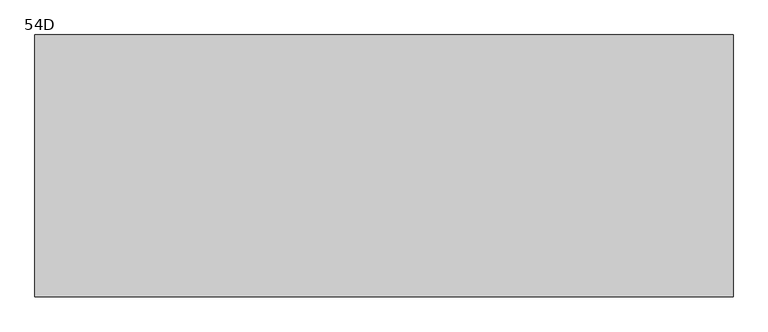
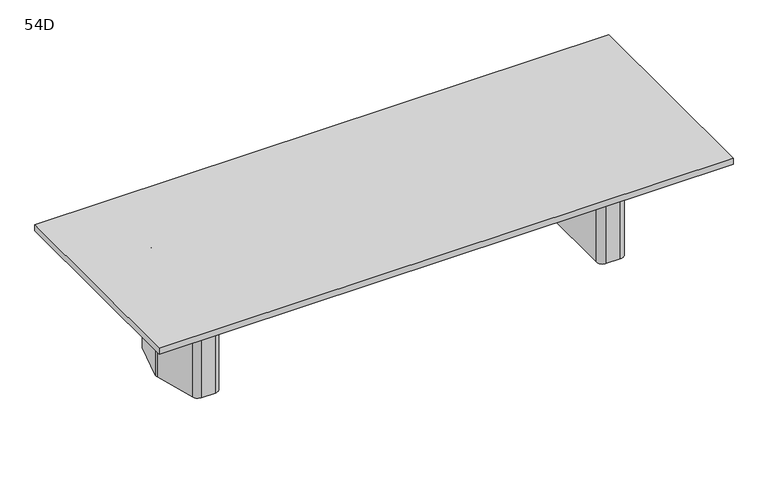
"""IFC4 building model written with IfcOpenShell, lengths in millimetres: furniture geometry, Coalesse_AM_Table_Conference_ETable2_Rectangular_12ft_TwoBase : 54D."""

from ifc_helpers import new_model, si_unit, frame, origin, place, context, project, spatial, polyline, circle_curve, outline, extrude, source, transform, mapped, element, save
from ifc_brep_helpers import plane_surface, cylinder_surface, revolved_surface, advanced_brep


def furniture_54d_54bf0e55(model_context):
    return source(origin(), model_context, "Body", "SolidModel", [
        advanced_brep(
        [(1370.224548, 274.2093613, 698.5), (1330.3579246, 304.8, 698.5), (1241.425, 304.8, 698.5), (1200.15, 263.525, 698.5), (1200.15, -263.525, 698.5), (1241.425, -304.8, 698.5), (1330.3579246, -304.8, 698.5), (1370.224548, -274.2093613, 698.5), (1440.8503901, -10.6333708, 698.5), (1440.8503901, 10.6333708, 698.5), (1238.25, -206.375, 698.5), (1238.25, 206.375, 698.5), (1263.65, 231.775, 698.5), (1322.6608422, 231.775, 698.5), (1347.195338, 212.9490792, 698.5), (1385.8875, 68.54974, 698.5), (1385.8875, -68.54974, 698.5), (1347.195338, -212.9490792, 698.5), (1322.6608422, -231.775, 698.5), (1263.65, -231.775, 698.5), (1370.224548, 274.2093613, 3.175), (1440.8503901, 10.6333708, 3.175), (1440.8503901, -10.6333708, 3.175), (1370.224548, -274.2093613, 3.175), (1330.3579246, -304.8, 3.175), (1241.425, -304.8, 3.175), (1200.15, -263.525, 3.175), (1200.15, 263.525, 3.175), (1241.425, 304.8, 3.175), (1330.3579246, 304.8, 3.175), (1359.4625859, 216.2361187, 3.175), (1322.6608422, 244.475, 3.175), (1263.65, 244.475, 3.175), (1225.55, 206.375, 3.175), (1225.55, -206.375, 3.175), (1263.65, -244.475, 3.175), (1322.6608422, -244.475, 3.175), (1359.4625859, -216.2361187, 3.175), (1398.5875, -70.2217466, 3.175), (1398.5875, 70.2217466, 3.175), (1263.65, -231.775, 3.175), (1238.25, -206.375, 3.175), (1322.6608422, -231.775, 3.175), (1347.195338, -212.9490792, 3.175), (1385.8875, -68.54974, 3.175), (1385.8875, 68.54974, 3.175), (1347.195338, 212.9490792, 3.175), (1322.6608422, 231.775, 3.175), (1263.65, 231.775, 3.175), (1238.25, 206.375, 3.175), (1359.4625859, 216.2361187, 0.0), (1398.5875, 70.2217466, 0.0), (1398.5875, -70.2217466, 0.0), (1359.4625859, -216.2361187, 0.0), (1322.6608422, -244.475, 0.0), (1263.65, -244.475, 0.0), (1225.55, -206.375, 0.0), (1225.55, 206.375, 0.0), (1263.65, 244.475, 0.0), (1322.6608422, 244.475, 0.0)],
        [
            (0, 1, circle_curve(frame((1330.3579246, 263.5270004, 698.5), z_axis=(0.0, 0.0, 1.0), x_axis=(-1.0, 0.0, 0.0)), 41.2729996)),
            (1, 2),
            (2, 3, circle_curve(frame((1241.425, 263.525, 698.5), z_axis=(0.0, 0.0, 1.0), x_axis=(-1.0, 0.0, 0.0)), 41.275)),
            (3, 4),
            (4, 5, circle_curve(frame((1241.425, -263.525, 698.5), z_axis=(0.0, 0.0, 1.0), x_axis=(-1.0, 0.0, 0.0)), 41.275)),
            (5, 6),
            (6, 7, circle_curve(frame((1330.3579246, -263.5270004, 698.5), z_axis=(0.0, 0.0, 1.0), x_axis=(-1.0, 0.0, 0.0)), 41.2729996)),
            (7, 8),
            (8, 9, circle_curve(frame((1401.1665979, 0.0, 698.5), z_axis=(0.0, 0.0, 1.0), x_axis=(-1.0, 0.0, 0.0)), 41.0837187)),
            (9, 0),
            (10, 11),
            (11, 12, circle_curve(frame((1263.65, 206.375, 698.5), z_axis=(0.0, 0.0, -1.0), x_axis=(-1.0, 0.0, 0.0)), 25.4)),
            (12, 13),
            (13, 14, circle_curve(frame((1322.6608422, 206.375, 698.5), z_axis=(0.0, 0.0, -1.0), x_axis=(-1.0, 0.0, 0.0)), 25.4)),
            (14, 15),
            (15, 16),
            (16, 17),
            (17, 18, circle_curve(frame((1322.6608422, -206.375, 698.5), z_axis=(0.0, 0.0, -1.0), x_axis=(-1.0, 0.0, 0.0)), 25.4)),
            (18, 19),
            (19, 10, circle_curve(frame((1263.65, -206.375, 698.5), z_axis=(0.0, 0.0, -1.0), x_axis=(-1.0, 0.0, 0.0)), 25.4)),
            (20, 21),
            (21, 22, circle_curve(frame((1401.1665979, 0.0, 3.175), z_axis=(0.0, 0.0, -1.0), x_axis=(-1.0, 0.0, 0.0)), 41.0837187)),
            (22, 23),
            (23, 24, circle_curve(frame((1330.3579246, -263.5270004, 3.175), z_axis=(0.0, 0.0, -1.0), x_axis=(-1.0, 0.0, 0.0)), 41.2729996)),
            (24, 25),
            (25, 26, circle_curve(frame((1241.425, -263.525, 3.175), z_axis=(0.0, 0.0, -1.0), x_axis=(-1.0, 0.0, 0.0)), 41.275)),
            (26, 27),
            (27, 28, circle_curve(frame((1241.425, 263.525, 3.175), z_axis=(0.0, 0.0, -1.0), x_axis=(-1.0, 0.0, 0.0)), 41.275)),
            (28, 29),
            (29, 20, circle_curve(frame((1330.3579246, 263.5270004, 3.175), z_axis=(0.0, 0.0, -1.0), x_axis=(-1.0, 0.0, 0.0)), 41.2729996)),
            (30, 31, circle_curve(frame((1322.6608422, 206.375, 3.175), z_axis=(0.0, 0.0, 1.0), x_axis=(-1.0, 0.0, 0.0)), 38.1)),
            (31, 32),
            (32, 33, circle_curve(frame((1263.65, 206.375, 3.175), z_axis=(0.0, 0.0, 1.0), x_axis=(-1.0, 0.0, 0.0)), 38.1)),
            (33, 34),
            (34, 35, circle_curve(frame((1263.65, -206.375, 3.175), z_axis=(0.0, 0.0, 1.0), x_axis=(-1.0, 0.0, 0.0)), 38.1)),
            (35, 36),
            (36, 37, circle_curve(frame((1322.6608422, -206.375, 3.175), z_axis=(0.0, 0.0, 1.0), x_axis=(-1.0, 0.0, 0.0)), 38.1)),
            (37, 38),
            (38, 39),
            (39, 30),
            (9, 21),
            (20, 0),
            (8, 22),
            (7, 23),
            (6, 24),
            (5, 25),
            (4, 26),
            (3, 27),
            (2, 28),
            (1, 29),
            (19, 40),
            (40, 41, circle_curve(frame((1263.65, -206.375, 3.175), z_axis=(0.0, 0.0, -1.0), x_axis=(-1.0, 0.0, 0.0)), 25.4)),
            (41, 10),
            (18, 42),
            (42, 40),
            (17, 43),
            (43, 42, circle_curve(frame((1322.6608422, -206.375, 3.175), z_axis=(0.0, 0.0, -1.0), x_axis=(-1.0, 0.0, 0.0)), 25.4)),
            (16, 44),
            (44, 43),
            (15, 45),
            (45, 44),
            (14, 46),
            (46, 45),
            (13, 47),
            (47, 46, circle_curve(frame((1322.6608422, 206.375, 3.175), z_axis=(0.0, 0.0, -1.0), x_axis=(-1.0, 0.0, 0.0)), 25.4)),
            (12, 48),
            (48, 47),
            (11, 49),
            (49, 48, circle_curve(frame((1263.65, 206.375, 3.175), z_axis=(0.0, 0.0, -1.0), x_axis=(-1.0, 0.0, 0.0)), 25.4)),
            (41, 49),
            (50, 51),
            (51, 52),
            (52, 53),
            (53, 54, circle_curve(frame((1322.6608422, -206.375, 0.0), z_axis=(0.0, 0.0, -1.0), x_axis=(-1.0, 0.0, 0.0)), 38.1)),
            (54, 55),
            (55, 56, circle_curve(frame((1263.65, -206.375, 0.0), z_axis=(0.0, 0.0, -1.0), x_axis=(-1.0, 0.0, 0.0)), 38.1)),
            (56, 57),
            (57, 58, circle_curve(frame((1263.65, 206.375, 0.0), z_axis=(0.0, 0.0, -1.0), x_axis=(-1.0, 0.0, 0.0)), 38.1)),
            (58, 59),
            (59, 50, circle_curve(frame((1322.6608422, 206.375, 0.0), z_axis=(0.0, 0.0, -1.0), x_axis=(-1.0, 0.0, 0.0)), 38.1)),
            (50, 30),
            (39, 51),
            (38, 52),
            (37, 53),
            (36, 54),
            (35, 55),
            (34, 56),
            (33, 57),
            (32, 58),
            (31, 59),
        ],
        [
            plane_surface(frame((1440.8374275, 10.6817473, 698.5), z_axis=(0.0, 0.0, 1.0000000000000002), x_axis=(0.25882201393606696, -0.9659250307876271, 0.0))),
            plane_surface(frame((1440.8374275, 10.6817473, 3.175), z_axis=(0.0, 0.0, -1.0000000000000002), x_axis=(-0.25882201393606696, 0.9659250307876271, 0.0))),
            plane_surface(frame((1370.224548, 274.2093613, 698.5), z_axis=(0.9659250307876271, 0.25882201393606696, 0.0), x_axis=(0.0, 0.0, -1.0))),
            cylinder_surface(frame((1401.1665979, 0.0, 3.175), z_axis=(0.0, 0.0, 1.0), x_axis=(-1.0, 0.0, 0.0)), 41.0837187),
            plane_surface(frame((1440.8503901, -10.6333708, 698.5), z_axis=(0.9659250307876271, -0.2588220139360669, 0.0), x_axis=(0.0, 0.0, -1.0))),
            cylinder_surface(frame((1330.3579246, -263.5270004, 3.175), z_axis=(0.0, 0.0, 1.0), x_axis=(-1.0, 0.0, 0.0)), 41.2729996),
            plane_surface(frame((1330.3579246, -304.8, 698.5), z_axis=(0.0, -1.0, 0.0), x_axis=(0.0, 0.0, -1.0))),
            cylinder_surface(frame((1241.425, -263.525, 3.175), z_axis=(0.0, 0.0, 1.0), x_axis=(-1.0, 0.0, 0.0)), 41.275),
            plane_surface(frame((1200.15, -263.525, 698.5), z_axis=(-1.0, 0.0, 0.0), x_axis=(0.0, 0.0, -1.0))),
            cylinder_surface(frame((1241.425, 263.525, 3.175), z_axis=(0.0, 0.0, 1.0), x_axis=(-1.0, 0.0, 0.0)), 41.275),
            plane_surface(frame((1241.425, 304.8, 698.5), z_axis=(0.0, 1.0, 0.0), x_axis=(0.0, 0.0, -1.0))),
            cylinder_surface(frame((1330.3579246, 263.5270004, 3.175), z_axis=(0.0, 0.0, 1.0), x_axis=(-1.0, 0.0, 0.0)), 41.2729996),
            revolved_surface(polyline([(1238.25, -206.375, 3.175), (1238.25, -206.375, 698.5)]), (1263.65, -206.375, 0.0), (0.0, 0.0, -1.0)),
            plane_surface(frame((1263.65, -231.775, 698.5), z_axis=(0.0, 1.0, 0.0), x_axis=(0.0, 0.0, -1.0))),
            revolved_surface(polyline([(1297.2608421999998, -206.375, 3.175), (1297.2608421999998, -206.375, 698.5)]), (1322.6608422, -206.375, 0.0), (0.0, 0.0, -1.0)),
            plane_surface(frame((1347.195338, -212.9490792, 698.5), z_axis=(-0.9659250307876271, 0.2588220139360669, 0.0), x_axis=(0.0, 0.0, -1.0))),
            plane_surface(frame((1385.8875, -68.54974, 698.5), z_axis=(-1.0, 0.0, 0.0), x_axis=(0.0, 0.0, -1.0))),
            plane_surface(frame((1385.8875, 68.54974, 698.5), z_axis=(-0.9659250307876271, -0.25882201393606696, 0.0), x_axis=(0.0, 0.0, -1.0))),
            revolved_surface(polyline([(1297.2608421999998, 206.375, 3.175), (1297.2608421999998, 206.375, 698.5)]), (1322.6608422, 206.375, 0.0), (0.0, 0.0, -1.0)),
            plane_surface(frame((1322.6608422, 231.775, 698.5), z_axis=(0.0, -1.0, 0.0), x_axis=(0.0, 0.0, -1.0))),
            revolved_surface(polyline([(1238.25, 206.375, 3.175), (1238.25, 206.375, 698.5)]), (1263.65, 206.375, 0.0), (0.0, 0.0, -1.0)),
            plane_surface(frame((1238.25, 206.375, 698.5), z_axis=(1.0, 0.0, 0.0), x_axis=(0.0, 0.0, -1.0))),
            plane_surface(frame((1398.1547479, 71.8367796, 3.175), z_axis=(0.0, 0.0, 1.0), x_axis=(0.25882201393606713, -0.965925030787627, 0.0))),
            plane_surface(frame((1398.1547479, 71.8367796, 0.0), z_axis=(0.0, 0.0, -1.0), x_axis=(-0.25882201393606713, 0.965925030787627, 0.0))),
            plane_surface(frame((1359.4625859, 216.2361187, 3.175), z_axis=(0.965925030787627, 0.25882201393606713, 0.0), x_axis=(0.0, 0.0, -1.0))),
            plane_surface(frame((1398.5875, 70.2217466, 3.175), z_axis=(1.0, 0.0, 0.0), x_axis=(0.0, 0.0, -1.0))),
            plane_surface(frame((1398.5875, -70.2217466, 3.175), z_axis=(0.9659250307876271, -0.2588220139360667, 0.0), x_axis=(0.0, 0.0, -1.0))),
            cylinder_surface(frame((1322.6608422, -206.375, 0.0), z_axis=(0.0, 0.0, 1.0), x_axis=(-1.0, 0.0, 0.0)), 38.1),
            plane_surface(frame((1322.6608422, -244.475, 3.175), z_axis=(0.0, -1.0, 0.0), x_axis=(0.0, 0.0, -1.0))),
            cylinder_surface(frame((1263.65, -206.375, 0.0), z_axis=(0.0, 0.0, 1.0), x_axis=(-1.0, 0.0, 0.0)), 38.1),
            plane_surface(frame((1225.55, -206.375, 3.175), z_axis=(-1.0, 0.0, 0.0), x_axis=(0.0, 0.0, -1.0))),
            cylinder_surface(frame((1263.65, 206.375, 0.0), z_axis=(0.0, 0.0, 1.0), x_axis=(-1.0, 0.0, 0.0)), 38.1),
            plane_surface(frame((1263.65, 244.475, 3.175), z_axis=(0.0, 1.0, 0.0), x_axis=(0.0, 0.0, -1.0))),
            cylinder_surface(frame((1322.6608422, 206.375, 0.0), z_axis=(0.0, 0.0, 1.0), x_axis=(-1.0, 0.0, 0.0)), 38.1),
        ],
        [
            (0, [[1, 2, 3, 4, 5, 6, 7, 8, 9, 10], [11, 12, 13, 14, 15, 16, 17, 18, 19, 20]]),
            (1, [[21, 22, 23, 24, 25, 26, 27, 28, 29, 30], [31, 32, 33, 34, 35, 36, 37, 38, 39, 40]]),
            (2, [[41, -21, 42, -10]]),
            (3, [[43, -22, -41, -9]]),
            (4, [[44, -23, -43, -8]]),
            (5, [[45, -24, -44, -7]]),
            (6, [[46, -25, -45, -6]]),
            (7, [[47, -26, -46, -5]]),
            (8, [[48, -27, -47, -4]]),
            (9, [[49, -28, -48, -3]]),
            (10, [[50, -29, -49, -2]]),
            (11, [[-42, -30, -50, -1]]),
            (12, [[51, 52, 53, -20]]),
            (13, [[54, 55, -51, -19]]),
            (14, [[56, 57, -54, -18]]),
            (15, [[58, 59, -56, -17]]),
            (16, [[60, 61, -58, -16]]),
            (17, [[62, 63, -60, -15]]),
            (18, [[64, 65, -62, -14]]),
            (19, [[66, 67, -64, -13]]),
            (20, [[68, 69, -66, -12]]),
            (21, [[-53, 70, -68, -11]]),
            (22, [[-55, -57, -59, -61, -63, -65, -67, -69, -70, -52]]),
            (23, [[71, 72, 73, 74, 75, 76, 77, 78, 79, 80]]),
            (24, [[81, -40, 82, -71]]),
            (25, [[-82, -39, 83, -72]]),
            (26, [[-83, -38, 84, -73]]),
            (27, [[-84, -37, 85, -74]]),
            (28, [[-85, -36, 86, -75]]),
            (29, [[-86, -35, 87, -76]]),
            (30, [[-87, -34, 88, -77]]),
            (31, [[-88, -33, 89, -78]]),
            (32, [[-89, -32, 90, -79]]),
            (33, [[-90, -31, -81, -80]]),
        ],
    ),
        advanced_brep(
        [(-1381.337048, 274.2093613, 698.5), (-1451.9628901, 10.6333708, 698.5), (-1451.9628901, -10.6333708, 698.5), (-1381.337048, -274.2093613, 698.5), (-1341.4704246, -304.8, 698.5), (-1252.5375, -304.8, 698.5), (-1211.2625, -263.525, 698.5), (-1211.2625, 263.525, 698.5), (-1252.5375, 304.8, 698.5), (-1341.4704246, 304.8, 698.5), (-1249.3625, -206.375, 698.5), (-1274.7625, -231.775, 698.5), (-1333.7733422, -231.775, 698.5), (-1358.307838, -212.9490792, 698.5), (-1397.0, -68.54974, 698.5), (-1397.0, 68.54974, 698.5), (-1358.307838, 212.9490792, 698.5), (-1333.7733422, 231.775, 698.5), (-1274.7625, 231.775, 698.5), (-1249.3625, 206.375, 698.5), (-1381.337048, 274.2093613, 3.175), (-1341.4704246, 304.8, 3.175), (-1252.5375, 304.8, 3.175), (-1211.2625, 263.525, 3.175), (-1211.2625, -263.525, 3.175), (-1252.5375, -304.8, 3.175), (-1341.4704246, -304.8, 3.175), (-1381.337048, -274.2093613, 3.175), (-1451.9628901, -10.6333708, 3.175), (-1451.9628901, 10.6333708, 3.175), (-1370.5750859, 216.2361187, 3.175), (-1409.7, 70.2217466, 3.175), (-1409.7, -70.2217466, 3.175), (-1370.5750859, -216.2361187, 3.175), (-1333.7733422, -244.475, 3.175), (-1274.7625, -244.475, 3.175), (-1236.6625, -206.375, 3.175), (-1236.6625, 206.375, 3.175), (-1274.7625, 244.475, 3.175), (-1333.7733422, 244.475, 3.175), (-1249.3625, -206.375, 3.175), (-1274.7625, -231.775, 3.175), (-1333.7733422, -231.775, 3.175), (-1358.307838, -212.9490792, 3.175), (-1397.0, -68.54974, 3.175), (-1397.0, 68.54974, 3.175), (-1358.307838, 212.9490792, 3.175), (-1333.7733422, 231.775, 3.175), (-1274.7625, 231.775, 3.175), (-1249.3625, 206.375, 3.175), (-1370.5750859, 216.2361187, 0.0), (-1333.7733422, 244.475, 0.0), (-1274.7625, 244.475, 0.0), (-1236.6625, 206.375, 0.0), (-1236.6625, -206.375, 0.0), (-1274.7625, -244.475, 0.0), (-1333.7733422, -244.475, 0.0), (-1370.5750859, -216.2361187, 0.0), (-1409.7, -70.2217466, 0.0), (-1409.7, 70.2217466, 0.0)],
        [
            (0, 1),
            (1, 2, circle_curve(frame((-1412.2790979, 0.0, 698.5), z_axis=(0.0, 0.0, 1.0), x_axis=(1.0, 0.0, 0.0)), 41.0837187)),
            (2, 3),
            (3, 4, circle_curve(frame((-1341.4704246, -263.5270004, 698.5), z_axis=(0.0, 0.0, 1.0), x_axis=(1.0, 0.0, 0.0)), 41.2729996)),
            (4, 5),
            (5, 6, circle_curve(frame((-1252.5375, -263.525, 698.5), z_axis=(0.0, 0.0, 1.0), x_axis=(1.0, 0.0, 0.0)), 41.275)),
            (6, 7),
            (7, 8, circle_curve(frame((-1252.5375, 263.525, 698.5), z_axis=(0.0, 0.0, 1.0), x_axis=(1.0, 0.0, 0.0)), 41.275)),
            (8, 9),
            (9, 0, circle_curve(frame((-1341.4704246, 263.5270004, 698.5), z_axis=(0.0, 0.0, 1.0), x_axis=(1.0, 0.0, 0.0)), 41.2729996)),
            (10, 11, circle_curve(frame((-1274.7625, -206.375, 698.5), z_axis=(0.0, 0.0, -1.0), x_axis=(1.0, 0.0, 0.0)), 25.4)),
            (11, 12),
            (12, 13, circle_curve(frame((-1333.7733422, -206.375, 698.5), z_axis=(0.0, 0.0, -1.0), x_axis=(1.0, 0.0, 0.0)), 25.4)),
            (13, 14),
            (14, 15),
            (15, 16),
            (16, 17, circle_curve(frame((-1333.7733422, 206.375, 698.5), z_axis=(0.0, 0.0, -1.0), x_axis=(1.0, 0.0, 0.0)), 25.4)),
            (17, 18),
            (18, 19, circle_curve(frame((-1274.7625, 206.375, 698.5), z_axis=(0.0, 0.0, -1.0), x_axis=(1.0, 0.0, 0.0)), 25.4)),
            (19, 10),
            (20, 21, circle_curve(frame((-1341.4704246, 263.5270004, 3.175), z_axis=(0.0, 0.0, -1.0), x_axis=(1.0, 0.0, 0.0)), 41.2729996)),
            (21, 22),
            (22, 23, circle_curve(frame((-1252.5375, 263.525, 3.175), z_axis=(0.0, 0.0, -1.0), x_axis=(1.0, 0.0, 0.0)), 41.275)),
            (23, 24),
            (24, 25, circle_curve(frame((-1252.5375, -263.525, 3.175), z_axis=(0.0, 0.0, -1.0), x_axis=(1.0, 0.0, 0.0)), 41.275)),
            (25, 26),
            (26, 27, circle_curve(frame((-1341.4704246, -263.5270004, 3.175), z_axis=(0.0, 0.0, -1.0), x_axis=(1.0, 0.0, 0.0)), 41.2729996)),
            (27, 28),
            (28, 29, circle_curve(frame((-1412.2790979, 0.0, 3.175), z_axis=(0.0, 0.0, -1.0), x_axis=(1.0, 0.0, 0.0)), 41.0837187)),
            (29, 20),
            (30, 31),
            (31, 32),
            (32, 33),
            (33, 34, circle_curve(frame((-1333.7733422, -206.375, 3.175), z_axis=(0.0, 0.0, 1.0), x_axis=(1.0, 0.0, 0.0)), 38.1)),
            (34, 35),
            (35, 36, circle_curve(frame((-1274.7625, -206.375, 3.175), z_axis=(0.0, 0.0, 1.0), x_axis=(1.0, 0.0, 0.0)), 38.1)),
            (36, 37),
            (37, 38, circle_curve(frame((-1274.7625, 206.375, 3.175), z_axis=(0.0, 0.0, 1.0), x_axis=(1.0, 0.0, 0.0)), 38.1)),
            (38, 39),
            (39, 30, circle_curve(frame((-1333.7733422, 206.375, 3.175), z_axis=(0.0, 0.0, 1.0), x_axis=(1.0, 0.0, 0.0)), 38.1)),
            (0, 20),
            (29, 1),
            (28, 2),
            (27, 3),
            (26, 4),
            (25, 5),
            (24, 6),
            (23, 7),
            (22, 8),
            (21, 9),
            (10, 40),
            (40, 41, circle_curve(frame((-1274.7625, -206.375, 3.175), z_axis=(0.0, 0.0, -1.0), x_axis=(1.0, 0.0, 0.0)), 25.4)),
            (41, 11),
            (41, 42),
            (42, 12),
            (42, 43, circle_curve(frame((-1333.7733422, -206.375, 3.175), z_axis=(0.0, 0.0, -1.0), x_axis=(1.0, 0.0, 0.0)), 25.4)),
            (43, 13),
            (43, 44),
            (44, 14),
            (44, 45),
            (45, 15),
            (45, 46),
            (46, 16),
            (46, 47, circle_curve(frame((-1333.7733422, 206.375, 3.175), z_axis=(0.0, 0.0, -1.0), x_axis=(1.0, 0.0, 0.0)), 25.4)),
            (47, 17),
            (47, 48),
            (48, 18),
            (48, 49, circle_curve(frame((-1274.7625, 206.375, 3.175), z_axis=(0.0, 0.0, -1.0), x_axis=(1.0, 0.0, 0.0)), 25.4)),
            (49, 19),
            (49, 40),
            (50, 51, circle_curve(frame((-1333.7733422, 206.375, 0.0), z_axis=(0.0, 0.0, -1.0), x_axis=(1.0, 0.0, 0.0)), 38.1)),
            (51, 52),
            (52, 53, circle_curve(frame((-1274.7625, 206.375, 0.0), z_axis=(0.0, 0.0, -1.0), x_axis=(1.0, 0.0, 0.0)), 38.1)),
            (53, 54),
            (54, 55, circle_curve(frame((-1274.7625, -206.375, 0.0), z_axis=(0.0, 0.0, -1.0), x_axis=(1.0, 0.0, 0.0)), 38.1)),
            (55, 56),
            (56, 57, circle_curve(frame((-1333.7733422, -206.375, 0.0), z_axis=(0.0, 0.0, -1.0), x_axis=(1.0, 0.0, 0.0)), 38.1)),
            (57, 58),
            (58, 59),
            (59, 50),
            (59, 31),
            (30, 50),
            (58, 32),
            (57, 33),
            (56, 34),
            (55, 35),
            (54, 36),
            (53, 37),
            (52, 38),
            (51, 39),
        ],
        [
            plane_surface(frame((-1451.9499275, 10.6817473, 698.5), z_axis=(0.0, 0.0, 1.0000000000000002), x_axis=(-0.25882201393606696, -0.9659250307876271, 0.0))),
            plane_surface(frame((-1451.9499275, 10.6817473, 3.175), z_axis=(0.0, 0.0, -1.0000000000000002), x_axis=(0.25882201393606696, 0.9659250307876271, 0.0))),
            plane_surface(frame((-1381.337048, 274.2093613, 698.5), z_axis=(-0.9659250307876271, 0.25882201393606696, 0.0), x_axis=(0.0, 0.0, -1.0))),
            cylinder_surface(frame((-1412.2790979, 0.0, 3.175), z_axis=(0.0, 0.0, 1.0), x_axis=(1.0, 0.0, 0.0)), 41.0837187),
            plane_surface(frame((-1451.9628901, -10.6333708, 698.5), z_axis=(-0.9659250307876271, -0.2588220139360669, 0.0), x_axis=(0.0, 0.0, -1.0))),
            cylinder_surface(frame((-1341.4704246, -263.5270004, 3.175), z_axis=(0.0, 0.0, 1.0), x_axis=(1.0, 0.0, 0.0)), 41.2729996),
            plane_surface(frame((-1341.4704246, -304.8, 698.5), z_axis=(0.0, -1.0, 0.0), x_axis=(0.0, 0.0, -1.0))),
            cylinder_surface(frame((-1252.5375, -263.525, 3.175), z_axis=(0.0, 0.0, 1.0), x_axis=(1.0, 0.0, 0.0)), 41.275),
            plane_surface(frame((-1211.2625, -263.525, 698.5), z_axis=(1.0, 0.0, 0.0), x_axis=(0.0, 0.0, -1.0))),
            cylinder_surface(frame((-1252.5375, 263.525, 3.175), z_axis=(0.0, 0.0, 1.0), x_axis=(1.0, 0.0, 0.0)), 41.275),
            plane_surface(frame((-1252.5375, 304.8, 698.5), z_axis=(0.0, 1.0, 0.0), x_axis=(0.0, 0.0, -1.0))),
            cylinder_surface(frame((-1341.4704246, 263.5270004, 3.175), z_axis=(0.0, 0.0, 1.0), x_axis=(1.0, 0.0, 0.0)), 41.2729996),
            revolved_surface(polyline([(-1249.3625, -206.375, 3.175), (-1249.3625, -206.375, 698.5)]), (-1274.7625, -206.375, 0.0), (0.0, 0.0, -1.0)),
            plane_surface(frame((-1274.7625, -231.775, 698.5), z_axis=(0.0, 1.0, 0.0), x_axis=(0.0, 0.0, -1.0))),
            revolved_surface(polyline([(-1308.3733421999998, -206.375, 3.175), (-1308.3733421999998, -206.375, 698.5)]), (-1333.7733422, -206.375, 0.0), (0.0, 0.0, -1.0)),
            plane_surface(frame((-1358.307838, -212.9490792, 698.5), z_axis=(0.9659250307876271, 0.2588220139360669, 0.0), x_axis=(0.0, 0.0, -1.0))),
            plane_surface(frame((-1397.0, -68.54974, 698.5), z_axis=(1.0, 0.0, 0.0), x_axis=(0.0, 0.0, -1.0))),
            plane_surface(frame((-1397.0, 68.54974, 698.5), z_axis=(0.9659250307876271, -0.25882201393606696, 0.0), x_axis=(0.0, 0.0, -1.0))),
            revolved_surface(polyline([(-1308.3733421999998, 206.375, 3.175), (-1308.3733421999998, 206.375, 698.5)]), (-1333.7733422, 206.375, 0.0), (0.0, 0.0, -1.0)),
            plane_surface(frame((-1333.7733422, 231.775, 698.5), z_axis=(0.0, -1.0, 0.0), x_axis=(0.0, 0.0, -1.0))),
            revolved_surface(polyline([(-1249.3625, 206.375, 3.175), (-1249.3625, 206.375, 698.5)]), (-1274.7625, 206.375, 0.0), (0.0, 0.0, -1.0)),
            plane_surface(frame((-1249.3625, 206.375, 698.5), z_axis=(-1.0, 0.0, 0.0), x_axis=(0.0, 0.0, -1.0))),
            plane_surface(frame((-1409.2672479, 71.8367796, 3.175), z_axis=(0.0, 0.0, 1.0), x_axis=(-0.25882201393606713, -0.965925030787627, 0.0))),
            plane_surface(frame((-1409.2672479, 71.8367796, 0.0), z_axis=(0.0, 0.0, -1.0), x_axis=(0.25882201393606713, 0.965925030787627, 0.0))),
            plane_surface(frame((-1370.5750859, 216.2361187, 3.175), z_axis=(-0.965925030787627, 0.25882201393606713, 0.0), x_axis=(0.0, 0.0, -1.0))),
            plane_surface(frame((-1409.7, 70.2217466, 3.175), z_axis=(-1.0, 0.0, 0.0), x_axis=(0.0, 0.0, -1.0))),
            plane_surface(frame((-1409.7, -70.2217466, 3.175), z_axis=(-0.9659250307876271, -0.2588220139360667, 0.0), x_axis=(0.0, 0.0, -1.0))),
            cylinder_surface(frame((-1333.7733422, -206.375, 0.0), z_axis=(0.0, 0.0, 1.0), x_axis=(1.0, 0.0, 0.0)), 38.1),
            plane_surface(frame((-1333.7733422, -244.475, 3.175), z_axis=(0.0, -1.0, 0.0), x_axis=(0.0, 0.0, -1.0))),
            cylinder_surface(frame((-1274.7625, -206.375, 0.0), z_axis=(0.0, 0.0, 1.0), x_axis=(1.0, 0.0, 0.0)), 38.1),
            plane_surface(frame((-1236.6625, -206.375, 3.175), z_axis=(1.0, 0.0, 0.0), x_axis=(0.0, 0.0, -1.0))),
            cylinder_surface(frame((-1274.7625, 206.375, 0.0), z_axis=(0.0, 0.0, 1.0), x_axis=(1.0, 0.0, 0.0)), 38.1),
            plane_surface(frame((-1274.7625, 244.475, 3.175), z_axis=(0.0, 1.0, 0.0), x_axis=(0.0, 0.0, -1.0))),
            cylinder_surface(frame((-1333.7733422, 206.375, 0.0), z_axis=(0.0, 0.0, 1.0), x_axis=(1.0, 0.0, 0.0)), 38.1),
        ],
        [
            (0, [[1, 2, 3, 4, 5, 6, 7, 8, 9, 10], [11, 12, 13, 14, 15, 16, 17, 18, 19, 20]]),
            (1, [[21, 22, 23, 24, 25, 26, 27, 28, 29, 30], [31, 32, 33, 34, 35, 36, 37, 38, 39, 40]]),
            (2, [[-1, 41, -30, 42]]),
            (3, [[-2, -42, -29, 43]]),
            (4, [[-3, -43, -28, 44]]),
            (5, [[-4, -44, -27, 45]]),
            (6, [[-5, -45, -26, 46]]),
            (7, [[-6, -46, -25, 47]]),
            (8, [[-7, -47, -24, 48]]),
            (9, [[-8, -48, -23, 49]]),
            (10, [[-9, -49, -22, 50]]),
            (11, [[-10, -50, -21, -41]]),
            (12, [[-11, 51, 52, 53]]),
            (13, [[-12, -53, 54, 55]]),
            (14, [[-13, -55, 56, 57]]),
            (15, [[-14, -57, 58, 59]]),
            (16, [[-15, -59, 60, 61]]),
            (17, [[-16, -61, 62, 63]]),
            (18, [[-17, -63, 64, 65]]),
            (19, [[-18, -65, 66, 67]]),
            (20, [[-19, -67, 68, 69]]),
            (21, [[-20, -69, 70, -51]]),
            (22, [[-52, -70, -68, -66, -64, -62, -60, -58, -56, -54]]),
            (23, [[71, 72, 73, 74, 75, 76, 77, 78, 79, 80]]),
            (24, [[-80, 81, -31, 82]]),
            (25, [[-79, 83, -32, -81]]),
            (26, [[-78, 84, -33, -83]]),
            (27, [[-77, 85, -34, -84]]),
            (28, [[-76, 86, -35, -85]]),
            (29, [[-75, 87, -36, -86]]),
            (30, [[-74, 88, -37, -87]]),
            (31, [[-73, 89, -38, -88]]),
            (32, [[-72, 90, -39, -89]]),
            (33, [[-71, -82, -40, -90]]),
        ],
    ),
        extrude(outline(polyline([(96.8375, 698.5), (103.1875, 698.5), (103.1875, 476.25), (-103.1875, 476.25), (-103.1875, 698.5), (-96.8375, 698.5), (-96.8375, 482.6), (96.8375, 482.6), (96.8375, 698.5)])), frame((-1211.2625, 0.0, 0.0), z_axis=(1.0, 0.0, 0.0), x_axis=(0.0, 1.0, 0.0)), (0.0, 0.0, 1.0), 2411.4125),
        extrude(outline(polyline([(1828.8, 685.8), (1828.8, -685.8), (-1828.8, -685.8), (-1828.8, 685.8), (1828.8, 685.8)])), frame((0.0, 0.0, 698.5), z_axis=(0.0, 0.0, 1.0), x_axis=(1.0, 0.0, 0.0)), (0.0, 0.0, 1.0), 38.1),
    ])


if __name__ == "__main__":
    model = new_model("IFC4")
    model_context = context("Model", 3, world=origin())
    ifc_project = project(units=[si_unit("LENGTHUNIT", "METRE", prefix="MILLI")], contexts=[model_context])
    site = spatial("IfcSite", under=ifc_project)
    building = spatial("IfcBuilding", under=site)
    placement = place(None, origin())
    furniture_54d_shape = furniture_54d_54bf0e55(model_context)
    element("IfcFurniture", 1, ObjectType="Coalesse_AM_Table_Conference_ETable2_Rectangular_12ft_TwoBase : 54D", at=placement, inside=building, context=model_context, shape_type="MappedRepresentation", body=[
        mapped(furniture_54d_shape, transform((0.0, 0.0, 0.0), x_axis=(1.0, 0.0, 0.0), y_axis=(0.0, 1.0, 0.0), z_axis=(0.0, 0.0, 1.0))),
    ])
    save(model, "model.ifc")
